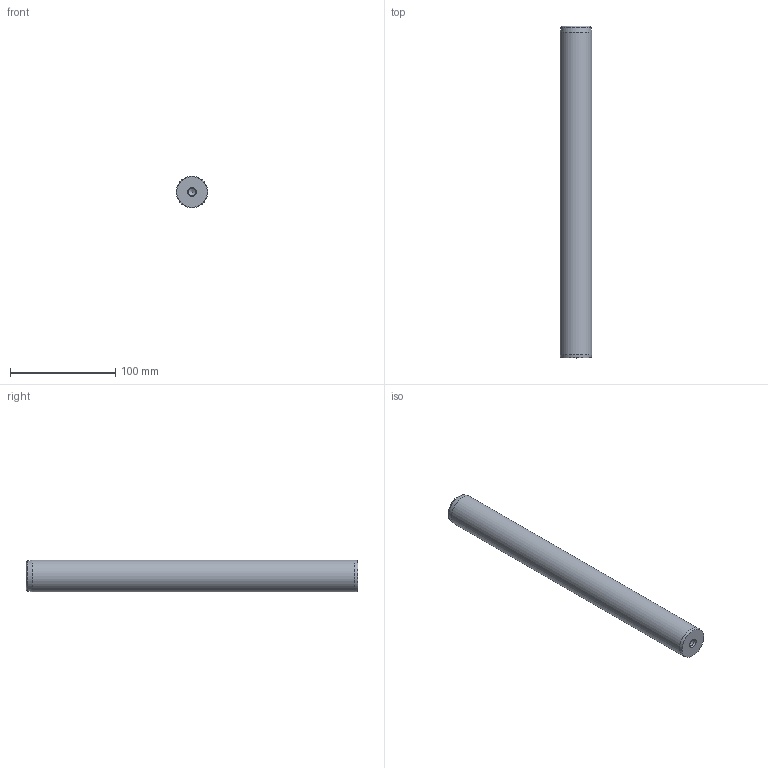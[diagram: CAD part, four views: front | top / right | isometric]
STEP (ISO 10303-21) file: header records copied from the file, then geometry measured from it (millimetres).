
FILE_DESCRIPTION( ( 'STEP AP203' ), '1' );
FILE_NAME( 'D:/Cuma/D14/D14_30315.step', '2003-01-18T23:24:15', ( ' ' ), ( ' ' ), 'XStep 1.0', ' ', ' ' );
FILE_SCHEMA( ( 'CONFIG_CONTROL_DESIGN' ) );
Length unit declared in the file: metre
Products named in the file (1): 1
Bounding box: 30 x 315 x 30 mm (x, y, z)
Volume: 220348.4 mm3; surface area: 32017.1 mm2
Topology: 1 solids, 1 shells, 14 faces, 29 edges, 17 vertices
Faces by surface type: cone 6, cylinder 5, plane 2, torus 1
Full cylindrical faces by diameter (mm): 6.75 x4, 30 x1
Entity records: 327 total; most frequent: DIRECTION 56, CARTESIAN_POINT 43, AXIS2_PLACEMENT_3D 28, EDGE_LOOP 26, ORIENTED_EDGE 26, FACE_OUTER_BOUND 20, VERTEX_POINT 15, ADVANCED_FACE 14
